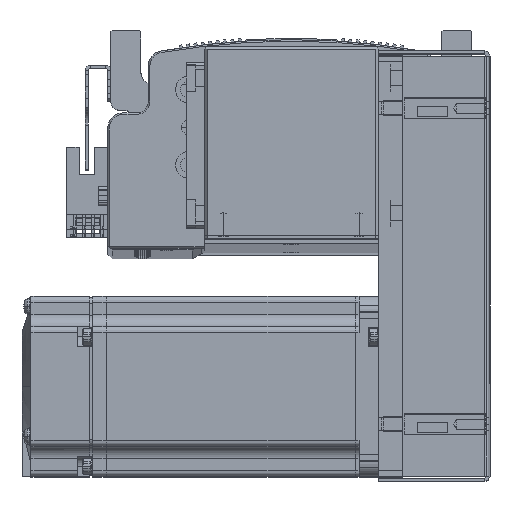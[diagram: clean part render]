
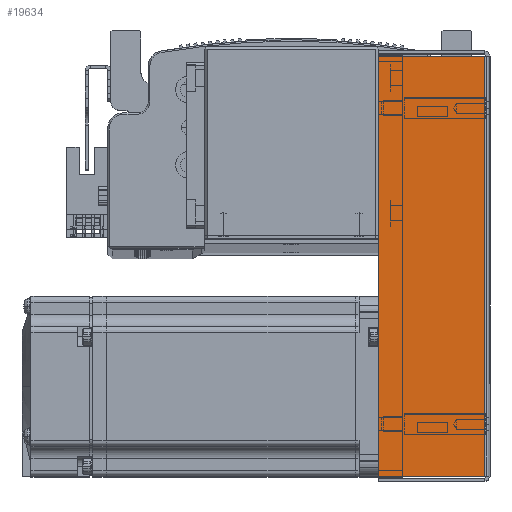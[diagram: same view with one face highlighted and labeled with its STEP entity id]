
A CAD part, top view. The second image highlights one B-rep face of the part: STEP entity #19634.
In plain terms, the highlighted planar face has unit normal (0, 0, 1).
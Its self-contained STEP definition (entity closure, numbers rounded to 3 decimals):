
#5355 = CARTESIAN_POINT ( 'NONE',  ( 69.793, 0.737, 33.5 ) ) ;
#5368 = CARTESIAN_POINT ( 'NONE',  ( -69.793, 36., 33.5 ) ) ;
#5376 = CARTESIAN_POINT ( 'NONE',  ( 69.793, 36., 33.5 ) ) ;
#5397 = CARTESIAN_POINT ( 'NONE',  ( -69.793, 0.737, 33.5 ) ) ;
#11090 = PLANE ( 'NONE',  #67161 ) ;
#11119 = DIRECTION ( 'NONE',  ( 0., 0., -1. ) ) ;
#11123 = CARTESIAN_POINT ( 'NONE',  ( 0., 0., 33.5 ) ) ;
#11125 = DIRECTION ( 'NONE',  ( -1., 0., 0. ) ) ;
#14617 = EDGE_LOOP ( 'NONE', ( #87748, #87723, #87717, #87737 ) ) ;
#19634 = ADVANCED_FACE ( 'NONE', ( #86827 ), #11090, .F. ) ;
#32055 = EDGE_CURVE ( 'NONE', #70217, #70243, #91923, .T. ) ;
#32061 = EDGE_CURVE ( 'NONE', #70217, #70238, #91985, .T. ) ;
#32094 = EDGE_CURVE ( 'NONE', #70238, #70186, #92029, .T. ) ;
#32138 = EDGE_CURVE ( 'NONE', #70243, #70186, #92247, .T. ) ;
#67161 = AXIS2_PLACEMENT_3D ( 'NONE', #11123, #11119, #11125 ) ;
#70186 = VERTEX_POINT ( 'NONE', #5368 ) ;
#70217 = VERTEX_POINT ( 'NONE', #5355 ) ;
#70238 = VERTEX_POINT ( 'NONE', #5376 ) ;
#70243 = VERTEX_POINT ( 'NONE', #5397 ) ;
#86827 = FACE_OUTER_BOUND ( 'NONE', #14617, .T. ) ;
#87717 = ORIENTED_EDGE ( 'NONE', *, *, #32094, .T. ) ;
#87723 = ORIENTED_EDGE ( 'NONE', *, *, #32061, .T. ) ;
#87737 = ORIENTED_EDGE ( 'NONE', *, *, #32138, .F. ) ;
#87748 = ORIENTED_EDGE ( 'NONE', *, *, #32055, .F. ) ;
#89595 = CARTESIAN_POINT ( 'NONE',  ( -71.5, 0.737, 33.5 ) ) ;
#89615 = DIRECTION ( 'NONE',  ( -1., 0., 0. ) ) ;
#89787 = DIRECTION ( 'NONE',  ( 0., 1., 0. ) ) ;
#89852 = CARTESIAN_POINT ( 'NONE',  ( 69.793, 0., 33.5 ) ) ;
#90101 = DIRECTION ( 'NONE',  ( -1., 0., 0. ) ) ;
#90119 = CARTESIAN_POINT ( 'NONE',  ( 0., 36., 33.5 ) ) ;
#90500 = CARTESIAN_POINT ( 'NONE',  ( -69.793, 0., 33.5 ) ) ;
#90623 = DIRECTION ( 'NONE',  ( 0., 1., 0. ) ) ;
#91879 = VECTOR ( 'NONE', #89787, 1000. ) ;
#91904 = VECTOR ( 'NONE', #89615, 1000. ) ;
#91923 = LINE ( 'NONE', #89595, #91904 ) ;
#91985 = LINE ( 'NONE', #89852, #91879 ) ;
#91996 = VECTOR ( 'NONE', #90101, 1000. ) ;
#92029 = LINE ( 'NONE', #90119, #91996 ) ;
#92210 = VECTOR ( 'NONE', #90623, 1000. ) ;
#92247 = LINE ( 'NONE', #90500, #92210 ) ;
